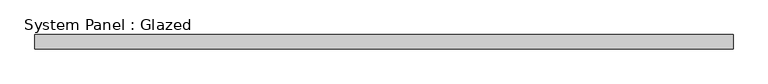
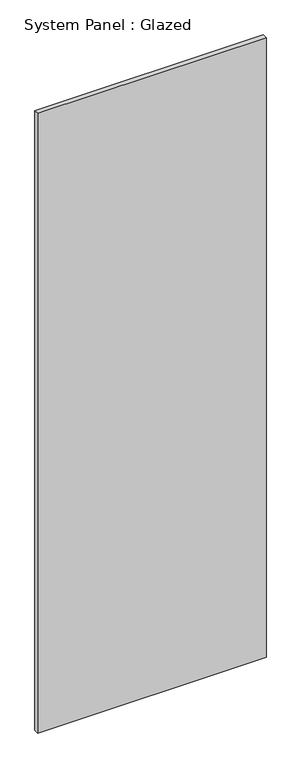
"""IFC4 building model written with IfcOpenShell, lengths in millimetres: plate geometry, System Panel : Glazed."""

from ifc_helpers import new_model, si_unit, origin, origin_with_axes, place, context, project, spatial, polyline, outline, extrude, source, transform, mapped, element, save


def system_panel_glazed_224d79fb(model_context):
    return source(origin(), model_context, "Body", "SweptSolid", [
        extrude(outline(polyline([(610.0, 24.5), (-610.0, 24.5), (-610.0, 49.5), (610.0, 49.5), (610.0, 24.5)])), origin_with_axes(), (0.0, 0.0, 1.0), 3500.0),
    ])


if __name__ == "__main__":
    model = new_model("IFC4")
    model_context = context("Model", 3, world=origin())
    ifc_project = project(units=[si_unit("LENGTHUNIT", "METRE", prefix="MILLI")], contexts=[model_context])
    site = spatial("IfcSite", under=ifc_project)
    building = spatial("IfcBuilding", under=site)
    placement = place(None, origin())
    system_panel_glazed_shape = system_panel_glazed_224d79fb(model_context)
    element("IfcPlate", 1, ObjectType="System Panel : Glazed", at=placement, inside=building, context=model_context, shape_type="MappedRepresentation", body=[
        mapped(system_panel_glazed_shape, transform((0.0, 0.0, 0.0), x_axis=(1.0, 0.0, 0.0), y_axis=(0.0, 1.0, 0.0), z_axis=(0.0, 0.0, 1.0))),
    ])
    save(model, "model.ifc")
